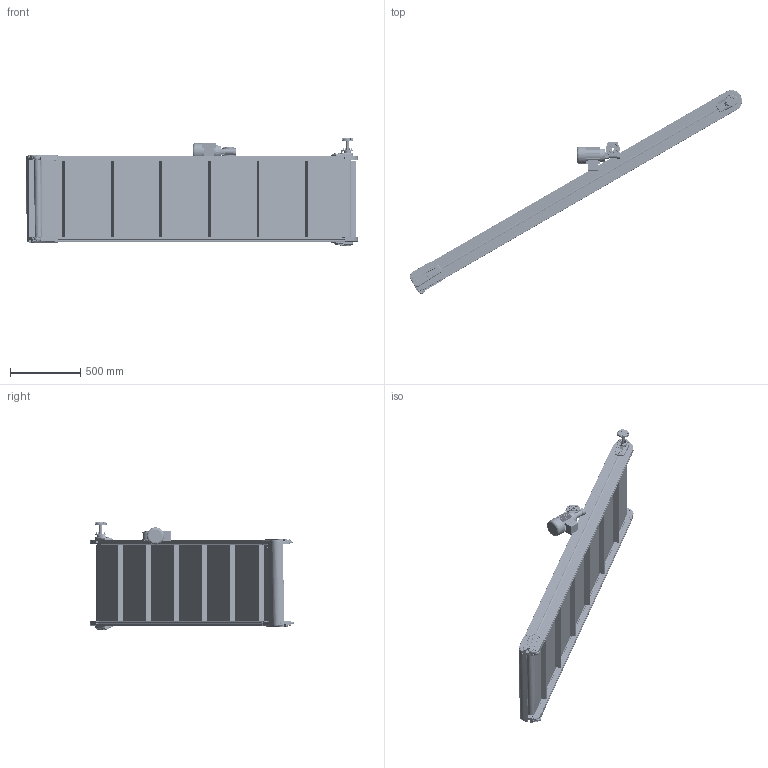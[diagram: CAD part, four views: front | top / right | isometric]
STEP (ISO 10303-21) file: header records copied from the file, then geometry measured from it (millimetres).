
FILE_DESCRIPTION (( 'STEP AP214' ), '1' );
FILE_NAME ('NASTRO_STAMPAGGIO_PLASTICA.step', '2026-05-09T17:32:10', ( 'Utente Windows' ), ( '' ), 'SwSTEP 2.0', 'SolidWorks 2024', '' );
FILE_SCHEMA (( 'AUTOMOTIVE_DESIGN' ));
Length unit declared in the file: millimetre
Products named in the file (31): TELAIO_D_Default<A macchina>; RONDELLE UNI 6592_8.4x17 UNI 6592; 0412TRSEA2; 084.831.040.550; NASTRO_STAMPAGGIO_PLASTICA; 084.802.061; RONDELLE UNI 6592_6.4x12.5 UNI 6592; 084.831.017; VITI TE UNI 5739_M6x16 UNI 5739; RONDELLE FASCIA LARGA UNI 6593_6.4x24 UNI 6593; 084.831.001_Default<A macchina>; 084.803.018; 084.808.012; 084.831.004; 084.831.024; CH04P_DX; 084.831.KI.550; 361102 serie 36; 084.831.018.600; 084.831.KD.44.550_DX; 084.802.062; 084.802.071; 084.831.047; VITI TE UNI 5739_M6x120 UNI5739; 084.831.023; VITI TCEI UNI 5931_M5x12 UNI 5931; CHIAVETTE_A 6x6x60 UNI 6604-69; 084.831.050; 084.802.034_084.802.034; TAPPETO_D; 084.301.000 VITI ALUSIC_084.301.003
Assembly tree (71 placements, depth 3):
  NASTRO_STAMPAGGIO_PLASTICA
    TAPPETO_D
    TELAIO_D_Default<A macchina>
    084.831.KD.44.550_DX
      084.831.004  x2
      084.831.047
      084.831.017  x2
      084.802.071
      084.301.000 VITI ALUSIC_084.301.003
      084.802.034_084.802.034  x2
      084.802.061
      VITI TE UNI 5739_M6x16 UNI 5739  x5
      CHIAVETTE_A 6x6x60 UNI 6604-69
      RONDELLE FASCIA LARGA UNI 6593_6.4x24 UNI 6593
      084.808.012
      RONDELLE UNI 6592_8.4x17 UNI 6592
      084.802.062
      084.803.018
      0412TRSEA2  x10
      VITI TCEI UNI 5931_M5x12 UNI 5931  x4
    CH04P_DX
    084.831.KI.550
      084.831.001_Default<A macchina>  x2
      084.831.024  x2
      361102 serie 36  x2
      084.831.018.600
      VITI TE UNI 5739_M6x120 UNI5739  x2
      RONDELLE UNI 6592_6.4x12.5 UNI 6592  x2
      084.301.000 VITI ALUSIC_084.301.003  x2
      084.831.050
      084.831.040.550
      084.831.023  x4
      0412TRSEA2  x12
Bounding box: 2368.19 x 1451.98 x 766.5 mm (x, y, z)
Volume: 20794331.5 mm3; surface area: 16446036 mm2
Topology: 102 solids, 109 shells, 8967 faces, 24024 edges, 15389 vertices
Faces by surface type: plane 3780, cylinder 2705, cone 1136, bspline 833, torus 389, sphere 124
Entity records: 210773 total; most frequent: CARTESIAN_POINT 69881, ORIENTED_EDGE 31004, DIRECTION 27258, EDGE_CURVE 15502, VERTEX_POINT 9970, AXIS2_PLACEMENT_3D 9609, VECTOR 8040, LINE 8040
